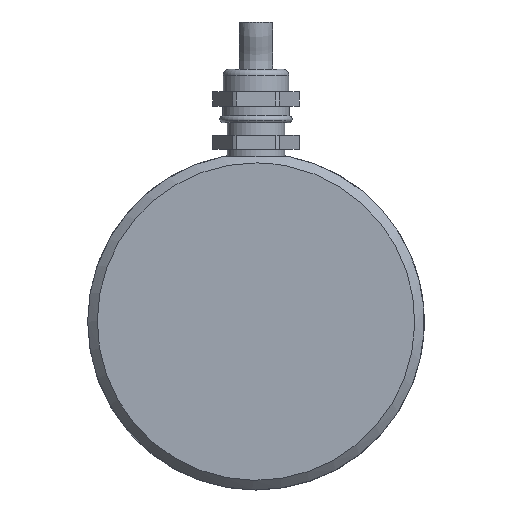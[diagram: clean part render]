
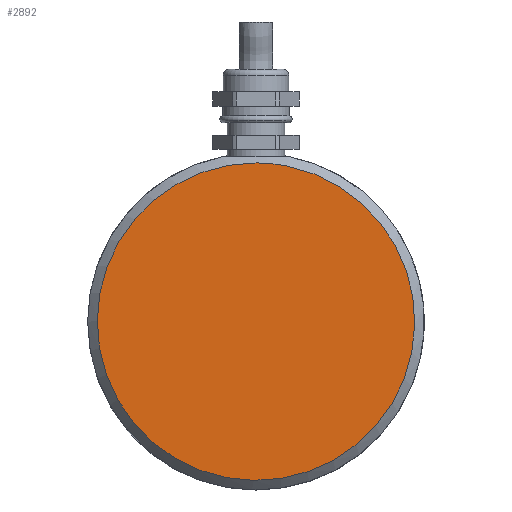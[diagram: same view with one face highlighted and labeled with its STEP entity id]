
A CAD part, left-side view. The second image highlights one B-rep face of the part: STEP entity #2892.
In plain terms, the highlighted planar face has unit normal (-1, 0, 0).
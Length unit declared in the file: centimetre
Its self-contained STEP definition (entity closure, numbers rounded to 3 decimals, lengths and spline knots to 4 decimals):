
#1684=VERTEX_POINT('',#9048);
#1863=EDGE_CURVE('',#1684,#1684,#3085,.T.);
#2130=ORIENTED_EDGE('',*,*,#1863,.F.);
#2627=EDGE_LOOP('',(#2130));
#2762=FACE_BOUND('',#2627,.T.);
#2892=ADVANCED_FACE('',(#2762),#8181,.T.);
#3085=CIRCLE('',#7633,3.3);
#7633=AXIS2_PLACEMENT_3D('',#9047,#11165,#11166);
#7637=AXIS2_PLACEMENT_3D('',#9063,#11175,$);
#8181=PLANE('',#7637);
#9047=CARTESIAN_POINT('',(0.,0.,0.));
#9048=CARTESIAN_POINT('',(0.,0.,3.3));
#9063=CARTESIAN_POINT('',(0.,0.,-1.75));
#11165=DIRECTION('',(1.,0.,0.));
#11166=DIRECTION('',(0.,0.,-3.3));
#11175=DIRECTION('',(-1.,0.,0.));
